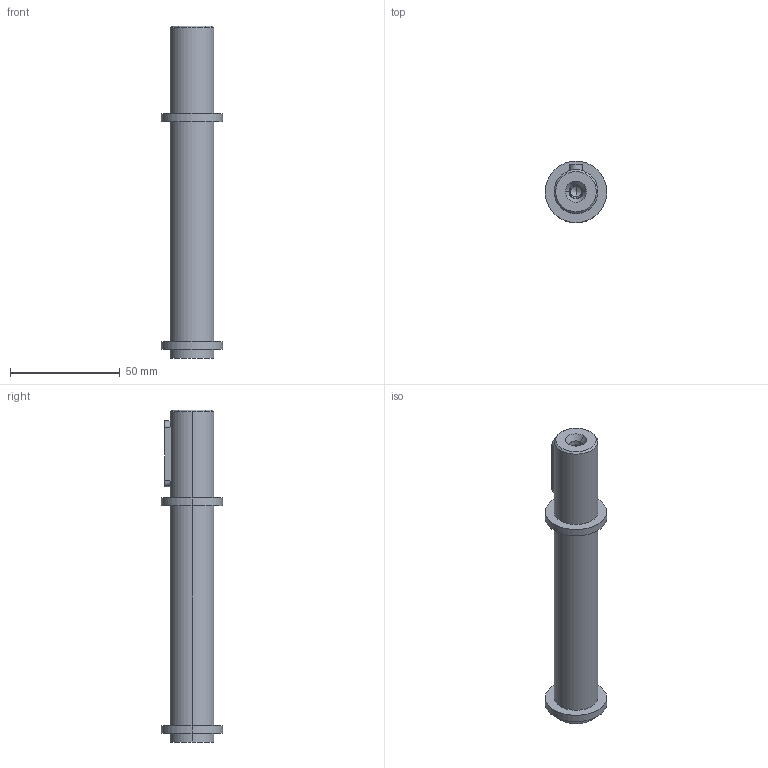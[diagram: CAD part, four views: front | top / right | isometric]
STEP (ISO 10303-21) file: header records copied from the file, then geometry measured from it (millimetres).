
FILE_DESCRIPTION(/* description */ (''),/* implementation_level */ '2;1');
FILE_NAME(/* name */ '4_ALBERO LENTO SEMPLICE BA42',/* time_stamp */ '2025-10-22T11:40:06+02:00',/* author */ (''),/* organization */ (''),/* preprocessor_version */ 'ST-DEVELOPER v19.2',/* originating_system */ 'Rhino 8.23',/* authorisation */ '');
FILE_SCHEMA (('CONFIG_CONTROL_DESIGN'));
Length unit declared in the file: millimetre
Products named in the file (2): Document; A42-S20804012201
Bounding box: 28 x 28 x 151 mm (x, y, z)
Volume: 49460.1 mm3; surface area: 11989.6 mm2
Topology: 1 solids, 1 shells, 34 faces, 70 edges, 43 vertices
Faces by surface type: cylinder 16, plane 10, bspline 8
Entity records: 1172 total; most frequent: CARTESIAN_POINT 335, ORIENTED_EDGE 136, DIRECTION 106, EDGE_CURVE 68, AXIS2_PLACEMENT_3D 66, VERTEX_POINT 43, EDGE_LOOP 41, TRIMMED_CURVE 36
